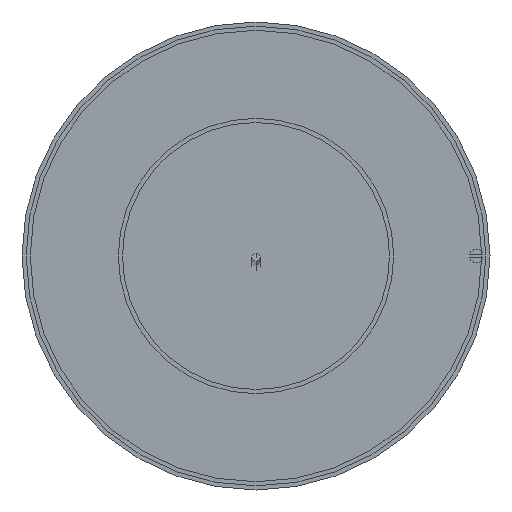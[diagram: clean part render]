
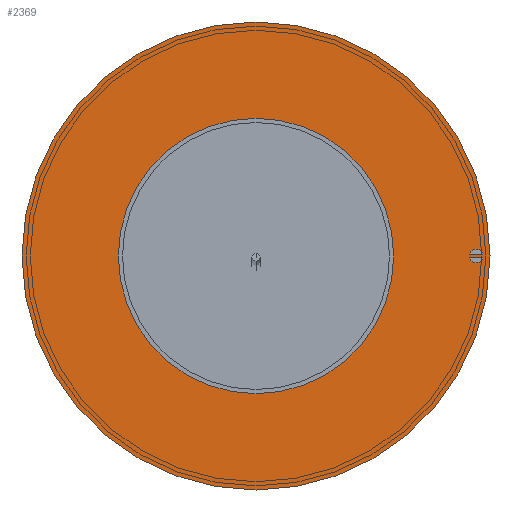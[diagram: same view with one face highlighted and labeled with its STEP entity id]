
A CAD part, front view. The second image highlights one B-rep face of the part: STEP entity #2369.
In plain terms, the highlighted planar face has unit normal (0, -1, 0).
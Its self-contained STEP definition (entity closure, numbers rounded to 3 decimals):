
#289 = DIRECTION ( 'NONE',  ( 0., 1., 0. ) ) ;
#611 = DIRECTION ( 'NONE',  ( 0., 0., 1. ) ) ;
#631 = ORIENTED_EDGE ( 'NONE', *, *, #1599, .F. ) ;
#653 = EDGE_CURVE ( 'NONE', #2158, #1667, #2171, .T. ) ;
#660 = EDGE_LOOP ( 'NONE', ( #631, #2085 ) ) ;
#801 = CARTESIAN_POINT ( 'NONE',  ( 0., 0., 85. ) ) ;
#846 = DIRECTION ( 'NONE',  ( 0., 1., 0. ) ) ;
#859 = CARTESIAN_POINT ( 'NONE',  ( 0., 0., 0. ) ) ;
#1037 = CARTESIAN_POINT ( 'NONE',  ( 0., 0., -85. ) ) ;
#1225 = FACE_OUTER_BOUND ( 'NONE', #660, .T. ) ;
#1238 = AXIS2_PLACEMENT_3D ( 'NONE', #2120, #1883, #2099 ) ;
#1529 = DIRECTION ( 'NONE',  ( 0., 0., 1. ) ) ;
#1599 = EDGE_CURVE ( 'NONE', #1667, #2158, #2566, .T. ) ;
#1667 = VERTEX_POINT ( 'NONE', #1037 ) ;
#1883 = DIRECTION ( 'NONE',  ( 0., 1., 0. ) ) ;
#1912 = AXIS2_PLACEMENT_3D ( 'NONE', #2879, #289, #1529 ) ;
#2085 = ORIENTED_EDGE ( 'NONE', *, *, #653, .F. ) ;
#2099 = DIRECTION ( 'NONE',  ( 0., 0., 1. ) ) ;
#2120 = CARTESIAN_POINT ( 'NONE',  ( 0., 0., 0. ) ) ;
#2158 = VERTEX_POINT ( 'NONE', #801 ) ;
#2171 = CIRCLE ( 'NONE', #1912, 85. ) ;
#2250 = AXIS2_PLACEMENT_3D ( 'NONE', #859, #846, #611 ) ;
#2369 = ADVANCED_FACE ( 'NONE', ( #1225 ), #2585, .F. ) ;
#2566 = CIRCLE ( 'NONE', #2250, 85. ) ;
#2585 = PLANE ( 'NONE',  #1238 ) ;
#2879 = CARTESIAN_POINT ( 'NONE',  ( 0., 0., 0. ) ) ;
